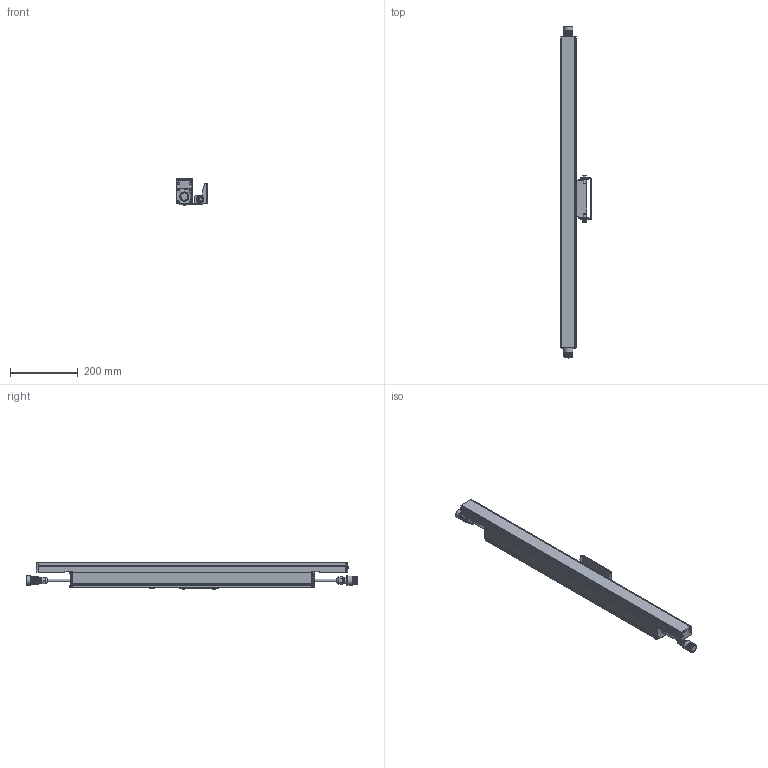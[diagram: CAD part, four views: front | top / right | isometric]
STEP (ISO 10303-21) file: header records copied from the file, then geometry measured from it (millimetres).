
FILE_DESCRIPTION(/* description */ ('Unknown'),/* implementation_level */ '2;1');
FILE_NAME(/* name */ 'ARCHILINE W 36.2',/* time_stamp */ '2023-01-24T04:00:06-05:00',/* author */ ('Unknown'),/* organization */ ('Unknown'),/* preprocessor_version */ 'ST-DEVELOPER v18.1',/* originating_system */ 'Solid Edge',/* authorisation */ 'Unknown');
FILE_SCHEMA (('AUTOMOTIVE_DESIGN {1 0 10303 214 3 1 1}'));
Products named in the file (1): ARCHILINE W 36.2
Bounding box: 90.95 x 979.5 x 81.8 mm (x, y, z)
Volume: 1927769.5 mm3; surface area: 461973.3 mm2
Topology: 1 solids, 1 shells, 3203 faces, 8592 edges, 5110 vertices
Faces by surface type: cylinder 1396, plane 975, bspline 338, sphere 224, torus 200, cone 70
Full cylindrical faces by diameter (mm): 2.9 x4, 4 x2, 6 x2, 6.5 x12, 7 x6, 8.13 x2, 8.6 x2, 10 x2, 12 x2, 16.5 x2, 17 x1, 18 x2, 19 x2, 26.7 x1, 27 x2, 27.2 x1
Entity records: 475138 total; most frequent: CARTESIAN_POINT 377159, ORIENTED_EDGE 16474, DIRECTION 15412, EDGE_CURVE 8237, AXIS2_PLACEMENT_3D 5812, VERTEX_POINT 5002, LINE 3788, VECTOR 3788
